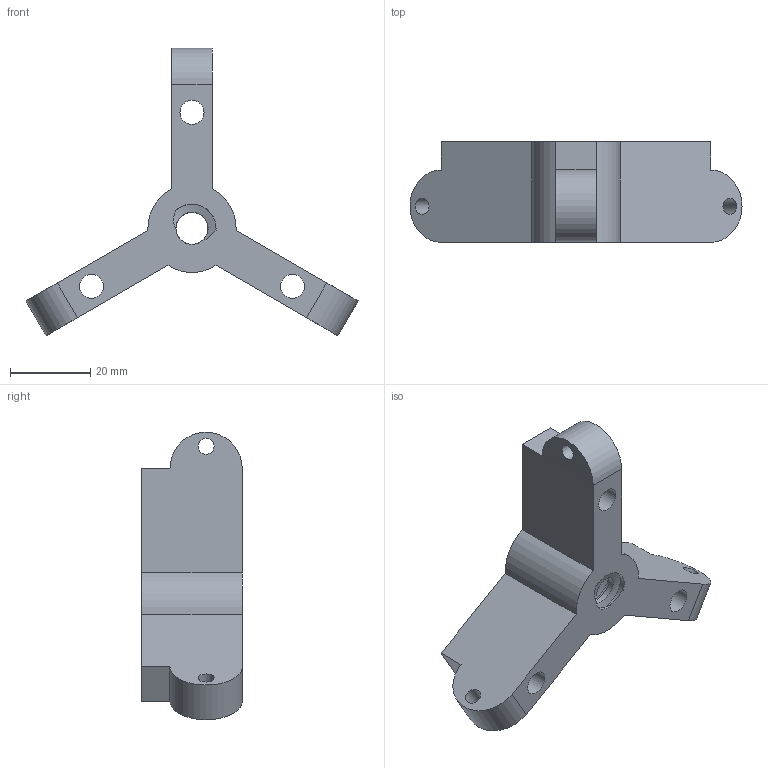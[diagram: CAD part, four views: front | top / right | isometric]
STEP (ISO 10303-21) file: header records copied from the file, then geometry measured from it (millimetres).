
FILE_DESCRIPTION(/* description */ ('STEP AP242 Edition 2','CAx-IF Rec.Pracs.---Representation and Presentation of Product Manufacturing Information (PMI)---4.0---2014-10-13','CAx-IF Rec.Pracs.---3D Tessellated Geometry---0.4---2014-09-14','2;1','CAx-IF Rec.Pracs.---User Defined Attributes---1.5---2016-08-15'),/* implementation_level */ '2;1');
FILE_NAME(/* name */ 'Assembly 1 - Bolt',/* time_stamp */ '2026-08-25T12:52:25Z',/* author */ (''),/* organization */ (''),/* preprocessor_version */ 'ST-DEVELOPER v20',/* originating_system */ 'ONSHAPE BY PTC INC, 1.219',/* authorisation */ ' ');
FILE_SCHEMA (('AP242_MANAGED_MODEL_BASED_3D_ENGINEERING_MIM_LF { 1 0 10303 442 3 1 4 }'));
Length unit declared in the file: metre
Products named in the file (1): Bolt
Bounding box: 82.67 x 25 x 71.6 mm (x, y, z)
Volume: 27718.5 mm3; surface area: 11738.2 mm2
Topology: 1 solids, 1 shells, 27 faces, 78 edges, 53 vertices
Faces by surface type: cylinder 14, plane 11, bspline 2
Full cylindrical faces by diameter (mm): 4 x3, 6 x3
Entity records: 1679 total; most frequent: CARTESIAN_POINT 957, DIRECTION 141, ORIENTED_EDGE 138, EDGE_CURVE 69, AXIS2_PLACEMENT_3D 54, VERTEX_POINT 50, EDGE_LOOP 47, FACE_BOUND 47
